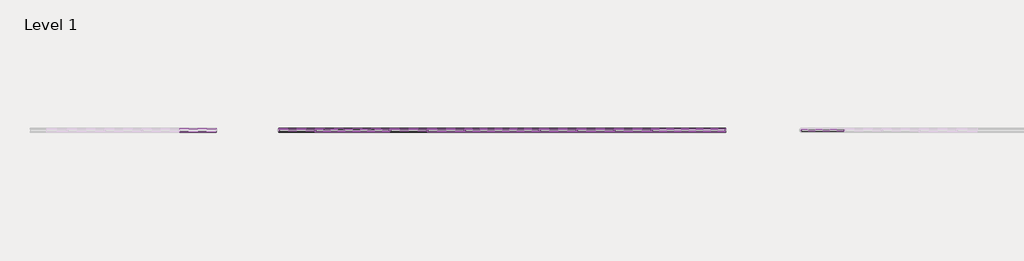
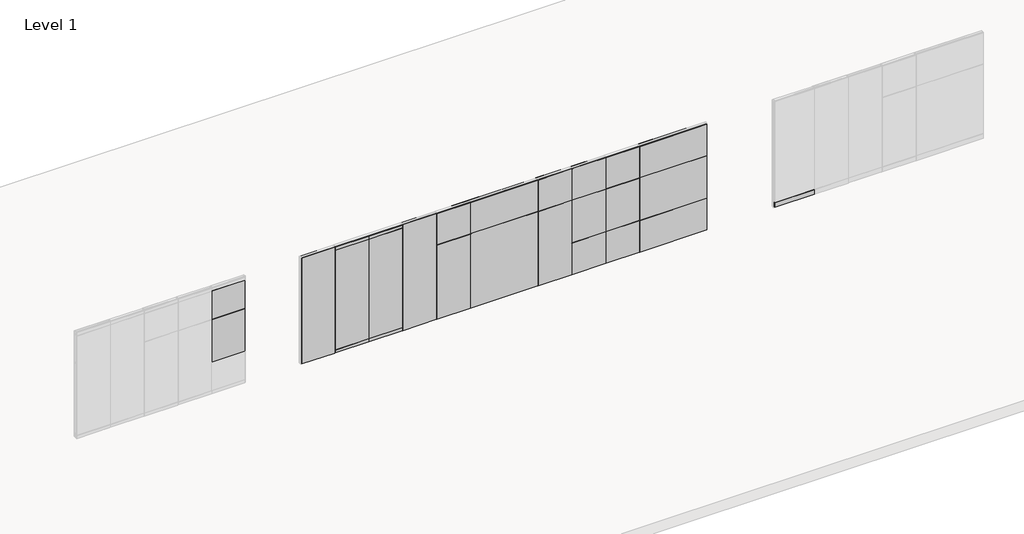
# One storey, part 6 of 22: 105 proxies.
"""IFC4 building model written with IfcOpenShell, lengths in millimetres."""

from ifc_helpers import new_model, si_unit, origin, place, context, project, spatial, transform, mapped, element, save
from components import fascia_teknion_ceiling_and_base_fpb1_d3fc623d, fascia_teknion_ceiling_and_base_fpb1_b7746e3f, fascia_teknion_ceiling_and_base_fpb1_fca0640a, fascia_teknion_ceiling_and_base_fpb1_086ac043, fascia_teknion_ceiling_and_base_fpb1_29265a3b, fascia_teknion_ceiling_and_base_fpb1_76749516, fascia_teknion_ceiling_and_base_fpb1_e3f5eff7, fascia_teknion_ceiling_and_base_fpb1_3a73742f, frame_teknion_horizontal_rail_5872ae1a, frame_teknion_horizontal_rail_46ee653b, frame_teknion_horizontal_rail_5dd37d62, frame_teknion_horizontal_rail_fbfe6c54, frame_teknion_horizontal_rail_cc39d483, full_f94a2816, full_1a342aed, full_e445f669, level_i_a4eb09b2, level_i_215115a4, level_i_cf48de54, level_i_87b26980, level_i_0481ec7f, level_ii_d92933f0, level_ii_5838736d, level_ii_d9937d3a, level_ii_c8f04d20, level_ii_2f074b98, level_iii_7086e34a, level_iii_17d9b208, level_iii_d208549f, level_iii_3557bc1e, level_iii_57fc346d, level_iii_7577bcf6, monolithic_level_i_61e75e15, monolithic_level_i_13c59c03, segmented_level_i_b619f2b0, segmented_level_i_812e5143, segmented_level_ii_95ed46a7, segmented_monolithic_level_i_26a9d159, segmented_monolithic_level_i_864a3625, segmented_monolithic_level_ii_ef75357c, segmented_monolithic_level_ii_36634c45, smart_fascia_73ffb3d4, smart_fascia_6a8e0afe, working_wall_monolithic_level_i_ddfac440, working_wall_monolithic_level_i_dfc08b04, working_wall_monolithic_level_iii_599cdcd6

model = new_model("IFC4")

# Units and contexts
model_context = context("Model", 3, world=origin())
ifc_project = project(units=[si_unit("LENGTHUNIT", "METRE", prefix="MILLI")], contexts=[model_context])

# Site, building, storey
site = spatial("IfcSite", under=ifc_project)
building = spatial("IfcBuilding", under=site)
storey = spatial("IfcBuildingStorey", under=building, Name="Level 1", Elevation=0.0)

# Proxies
placement = place(None, origin())
fascia_teknion_ceiling_and_base_fpb1_shape = fascia_teknion_ceiling_and_base_fpb1_d3fc623d(model_context)
element("IfcBuildingElementProxy", 1, Name="Fascia-Teknion-Ceiling_and_Base : FPB1", ObjectType="Fascia-Teknion-Ceiling_and_Base : FPB1", at=placement, inside=storey, context=model_context, shape_type="MappedRepresentation", body=[
    mapped(fascia_teknion_ceiling_and_base_fpb1_shape, transform((-75725.4738225, 1781.3642105, 15.875), x_axis=(1.0, 0.0, 0.0), y_axis=(0.0, 1.0, 0.0), z_axis=(0.0, 0.0, 1.0))),
])
fascia_teknion_ceiling_and_base_fpb1_2_shape = fascia_teknion_ceiling_and_base_fpb1_b7746e3f(model_context)
element("IfcBuildingElementProxy", 2, Name="Fascia-Teknion-Ceiling_and_Base : FPB1", ObjectType="Fascia-Teknion-Ceiling_and_Base : FPB1", at=placement, inside=storey, context=model_context, shape_type="MappedRepresentation", body=[
    mapped(fascia_teknion_ceiling_and_base_fpb1_2_shape, transform((-79003.3636663, 1843.3402105, 15.875), x_axis=(1.0, 0.0, 0.0), y_axis=(0.0, 1.0, 0.0), z_axis=(0.0, 0.0, 1.0))),
])
fascia_teknion_ceiling_and_base_fpb1_3_shape = fascia_teknion_ceiling_and_base_fpb1_fca0640a(model_context)
element("IfcBuildingElementProxy", 3, Name="Fascia-Teknion-Ceiling_and_Base : FPB1", ObjectType="Fascia-Teknion-Ceiling_and_Base : FPB1", at=placement, inside=storey, context=model_context, shape_type="MappedRepresentation", body=[
    mapped(fascia_teknion_ceiling_and_base_fpb1_3_shape, transform((-84939.9687444, 1843.3402105, 15.875), x_axis=(1.0, 0.0, 0.0), y_axis=(0.0, 1.0, 0.0), z_axis=(0.0, 0.0, 1.0))),
])
element("IfcBuildingElementProxy", 4, Name="Fascia-Teknion-Ceiling_and_Base : FPB1", ObjectType="Fascia-Teknion-Ceiling_and_Base : FPB1", at=placement, inside=storey, context=model_context, shape_type="MappedRepresentation", body=[
    mapped(fascia_teknion_ceiling_and_base_fpb1_3_shape, transform((-82196.7687444, 1843.3402105, 15.875), x_axis=(1.0, 0.0, 0.0), y_axis=(0.0, 1.0, 0.0), z_axis=(0.0, 0.0, 1.0))),
])
element("IfcBuildingElementProxy", 5, Name="Fascia-Teknion-Ceiling_and_Base : FPB1", ObjectType="Fascia-Teknion-Ceiling_and_Base : FPB1", at=placement, inside=storey, context=model_context, shape_type="MappedRepresentation", body=[
    mapped(fascia_teknion_ceiling_and_base_fpb1_3_shape, transform((-81282.3687444, 1843.3402105, 15.875), x_axis=(1.0, 0.0, 0.0), y_axis=(0.0, 1.0, 0.0), z_axis=(0.0, 0.0, 1.0))),
])
element("IfcBuildingElementProxy", 6, Name="Fascia-Teknion-Ceiling_and_Base : FPB1", ObjectType="Fascia-Teknion-Ceiling_and_Base : FPB1", at=placement, inside=storey, context=model_context, shape_type="MappedRepresentation", body=[
    mapped(fascia_teknion_ceiling_and_base_fpb1_3_shape, transform((-80367.9687444, 1843.3402105, 15.875), x_axis=(1.0, 0.0, 0.0), y_axis=(0.0, 1.0, 0.0), z_axis=(0.0, 0.0, 1.0))),
])
element("IfcBuildingElementProxy", 7, Name="Fascia-Teknion-Ceiling_and_Base : FPB1", ObjectType="Fascia-Teknion-Ceiling_and_Base : FPB1", at=placement, inside=storey, context=model_context, shape_type="MappedRepresentation", body=[
    mapped(fascia_teknion_ceiling_and_base_fpb1_3_shape, transform((-85854.3687444, 1843.3402105, 15.875), x_axis=(1.0, 0.0, 0.0), y_axis=(0.0, 1.0, 0.0), z_axis=(0.0, 0.0, 1.0))),
])
fascia_teknion_ceiling_and_base_fpb1_4_shape = fascia_teknion_ceiling_and_base_fpb1_086ac043(model_context)
element("IfcBuildingElementProxy", 8, Name="Fascia-Teknion-Ceiling_and_Base : FPB1", ObjectType="Fascia-Teknion-Ceiling_and_Base : FPB1", at=placement, inside=storey, context=model_context, shape_type="MappedRepresentation", body=[
    mapped(fascia_teknion_ceiling_and_base_fpb1_4_shape, transform((-83568.3687444, 1843.3402105, 15.875), x_axis=(1.0, 0.0, 0.0), y_axis=(0.0, 1.0, 0.0), z_axis=(0.0, 0.0, 1.0))),
])
fascia_teknion_ceiling_and_base_fpb1_5_shape = fascia_teknion_ceiling_and_base_fpb1_29265a3b(model_context)
element("IfcBuildingElementProxy", 9, Name="Fascia-Teknion-Ceiling_and_Base : FPB1", ObjectType="Fascia-Teknion-Ceiling_and_Base : FPB1", at=placement, inside=storey, context=model_context, shape_type="MappedRepresentation", body=[
    mapped(fascia_teknion_ceiling_and_base_fpb1_5_shape, transform((-75725.4738225, 1843.3402105, 15.875), x_axis=(1.0, 0.0, 0.0), y_axis=(0.0, 1.0, 0.0), z_axis=(0.0, 0.0, 1.0))),
])
fascia_teknion_ceiling_and_base_fpb1_6_shape = fascia_teknion_ceiling_and_base_fpb1_76749516(model_context)
element("IfcBuildingElementProxy", 10, Name="Fascia-Teknion-Ceiling_and_Base : FPB1", ObjectType="Fascia-Teknion-Ceiling_and_Base : FPB1", at=placement, inside=storey, context=model_context, shape_type="MappedRepresentation", body=[
    mapped(fascia_teknion_ceiling_and_base_fpb1_6_shape, transform((-88590.5738225, 1843.3402105, 15.875), x_axis=(1.0, 0.0, 0.0), y_axis=(0.0, 1.0, 0.0), z_axis=(0.0, 0.0, 1.0))),
])
fascia_teknion_ceiling_and_base_fpb1_7_shape = fascia_teknion_ceiling_and_base_fpb1_e3f5eff7(model_context)
element("IfcBuildingElementProxy", 11, Name="Fascia-Teknion-Ceiling_and_Base : FPB1", ObjectType="Fascia-Teknion-Ceiling_and_Base : FPB1", at=placement, inside=storey, context=model_context, shape_type="MappedRepresentation", body=[
    mapped(fascia_teknion_ceiling_and_base_fpb1_7_shape, transform((-87681.5812444, 1843.3402105, 15.875), x_axis=(1.0, 0.0, 0.0), y_axis=(0.0, 1.0, 0.0), z_axis=(0.0, 0.0, 1.0))),
])
element("IfcBuildingElementProxy", 12, Name="Fascia-Teknion-Ceiling_and_Base : FPB1", ObjectType="Fascia-Teknion-Ceiling_and_Base : FPB1", at=placement, inside=storey, context=model_context, shape_type="MappedRepresentation", body=[
    mapped(fascia_teknion_ceiling_and_base_fpb1_7_shape, transform((-86770.3562444, 1781.3642105, 15.875), x_axis=(-1.0, 0.0, 0.0), y_axis=(0.0, -1.0, 0.0), z_axis=(0.0, 0.0, 1.0))),
])
fascia_teknion_ceiling_and_base_fpb1_8_shape = fascia_teknion_ceiling_and_base_fpb1_3a73742f(model_context)
element("IfcBuildingElementProxy", 13, Name="Fascia-Teknion-Ceiling_and_Base : FPB1", ObjectType="Fascia-Teknion-Ceiling_and_Base : FPB1", at=placement, inside=storey, context=model_context, shape_type="MappedRepresentation", body=[
    mapped(fascia_teknion_ceiling_and_base_fpb1_8_shape, transform((-87681.5812444, 1781.3642105, 15.875), x_axis=(1.0, 0.0, 0.0), y_axis=(0.0, 1.0, 0.0), z_axis=(0.0, 0.0, 1.0))),
])
element("IfcBuildingElementProxy", 14, Name="Fascia-Teknion-Ceiling_and_Base : FPB1", ObjectType="Fascia-Teknion-Ceiling_and_Base : FPB1", at=placement, inside=storey, context=model_context, shape_type="MappedRepresentation", body=[
    mapped(fascia_teknion_ceiling_and_base_fpb1_8_shape, transform((-86770.3562444, 1843.3402105, 15.875), x_axis=(-1.0, 0.0, 0.0), y_axis=(0.0, -1.0, 0.0), z_axis=(0.0, 0.0, 1.0))),
])
element("IfcBuildingElementProxy", 15, Name="Fascia-Teknion-Ceiling_and_Base : FPC", ObjectType="Fascia-Teknion-Ceiling_and_Base : FPC", at=placement, inside=storey, context=model_context, shape_type="MappedRepresentation", body=[
    mapped(fascia_teknion_ceiling_and_base_fpb1_2_shape, transform((-79003.3636663, 1843.3402105, 2950.845), x_axis=(1.0, 0.0, 0.0), y_axis=(0.0, 1.0, 0.0), z_axis=(0.0, 0.0, 1.0))),
])
element("IfcBuildingElementProxy", 16, Name="Fascia-Teknion-Ceiling_and_Base : FPC", ObjectType="Fascia-Teknion-Ceiling_and_Base : FPC", at=placement, inside=storey, context=model_context, shape_type="MappedRepresentation", body=[
    mapped(fascia_teknion_ceiling_and_base_fpb1_3_shape, transform((-84939.9687444, 1843.3402105, 2950.845), x_axis=(1.0, 0.0, 0.0), y_axis=(0.0, 1.0, 0.0), z_axis=(0.0, 0.0, 1.0))),
])
element("IfcBuildingElementProxy", 17, Name="Fascia-Teknion-Ceiling_and_Base : FPC", ObjectType="Fascia-Teknion-Ceiling_and_Base : FPC", at=placement, inside=storey, context=model_context, shape_type="MappedRepresentation", body=[
    mapped(fascia_teknion_ceiling_and_base_fpb1_3_shape, transform((-82196.7687444, 1843.3402105, 2950.845), x_axis=(1.0, 0.0, 0.0), y_axis=(0.0, 1.0, 0.0), z_axis=(0.0, 0.0, 1.0))),
])
element("IfcBuildingElementProxy", 18, Name="Fascia-Teknion-Ceiling_and_Base : FPC", ObjectType="Fascia-Teknion-Ceiling_and_Base : FPC", at=placement, inside=storey, context=model_context, shape_type="MappedRepresentation", body=[
    mapped(fascia_teknion_ceiling_and_base_fpb1_3_shape, transform((-81282.3687444, 1843.3402105, 2950.845), x_axis=(1.0, 0.0, 0.0), y_axis=(0.0, 1.0, 0.0), z_axis=(0.0, 0.0, 1.0))),
])
element("IfcBuildingElementProxy", 19, Name="Fascia-Teknion-Ceiling_and_Base : FPC", ObjectType="Fascia-Teknion-Ceiling_and_Base : FPC", at=placement, inside=storey, context=model_context, shape_type="MappedRepresentation", body=[
    mapped(fascia_teknion_ceiling_and_base_fpb1_3_shape, transform((-80367.9687444, 1843.3402105, 2950.845), x_axis=(1.0, 0.0, 0.0), y_axis=(0.0, 1.0, 0.0), z_axis=(0.0, 0.0, 1.0))),
])
element("IfcBuildingElementProxy", 20, Name="Fascia-Teknion-Ceiling_and_Base : FPC", ObjectType="Fascia-Teknion-Ceiling_and_Base : FPC", at=placement, inside=storey, context=model_context, shape_type="MappedRepresentation", body=[
    mapped(fascia_teknion_ceiling_and_base_fpb1_3_shape, transform((-85854.3687444, 1843.3402105, 2950.845), x_axis=(1.0, 0.0, 0.0), y_axis=(0.0, 1.0, 0.0), z_axis=(0.0, 0.0, 1.0))),
])
element("IfcBuildingElementProxy", 21, Name="Fascia-Teknion-Ceiling_and_Base : FPC", ObjectType="Fascia-Teknion-Ceiling_and_Base : FPC", at=placement, inside=storey, context=model_context, shape_type="MappedRepresentation", body=[
    mapped(fascia_teknion_ceiling_and_base_fpb1_4_shape, transform((-83568.3687444, 1843.3402105, 2950.845), x_axis=(1.0, 0.0, 0.0), y_axis=(0.0, 1.0, 0.0), z_axis=(0.0, 0.0, 1.0))),
])
element("IfcBuildingElementProxy", 22, Name="Fascia-Teknion-Ceiling_and_Base : FPC", ObjectType="Fascia-Teknion-Ceiling_and_Base : FPC", at=placement, inside=storey, context=model_context, shape_type="MappedRepresentation", body=[
    mapped(fascia_teknion_ceiling_and_base_fpb1_6_shape, transform((-88590.5738225, 1843.3402105, 2950.845), x_axis=(1.0, 0.0, 0.0), y_axis=(0.0, 1.0, 0.0), z_axis=(0.0, 0.0, 1.0))),
])
element("IfcBuildingElementProxy", 23, Name="Fascia-Teknion-Ceiling_and_Base : FPC", ObjectType="Fascia-Teknion-Ceiling_and_Base : FPC", at=placement, inside=storey, context=model_context, shape_type="MappedRepresentation", body=[
    mapped(fascia_teknion_ceiling_and_base_fpb1_7_shape, transform((-87681.5812444, 1843.3402105, 2950.845), x_axis=(1.0, 0.0, 0.0), y_axis=(0.0, 1.0, 0.0), z_axis=(0.0, 0.0, 1.0))),
])
element("IfcBuildingElementProxy", 24, Name="Fascia-Teknion-Ceiling_and_Base : FPC", ObjectType="Fascia-Teknion-Ceiling_and_Base : FPC", at=placement, inside=storey, context=model_context, shape_type="MappedRepresentation", body=[
    mapped(fascia_teknion_ceiling_and_base_fpb1_7_shape, transform((-86770.3562444, 1781.3642105, 2950.845), x_axis=(-1.0, 0.0, 0.0), y_axis=(0.0, -1.0, 0.0), z_axis=(0.0, 0.0, 1.0))),
])
element("IfcBuildingElementProxy", 25, Name="Fascia-Teknion-Ceiling_and_Base : FPC", ObjectType="Fascia-Teknion-Ceiling_and_Base : FPC", at=placement, inside=storey, context=model_context, shape_type="MappedRepresentation", body=[
    mapped(fascia_teknion_ceiling_and_base_fpb1_8_shape, transform((-87681.5812444, 1781.3642105, 2950.845), x_axis=(1.0, 0.0, 0.0), y_axis=(0.0, 1.0, 0.0), z_axis=(0.0, 0.0, 1.0))),
])
element("IfcBuildingElementProxy", 26, Name="Fascia-Teknion-Ceiling_and_Base : FPC", ObjectType="Fascia-Teknion-Ceiling_and_Base : FPC", at=placement, inside=storey, context=model_context, shape_type="MappedRepresentation", body=[
    mapped(fascia_teknion_ceiling_and_base_fpb1_8_shape, transform((-86770.3562444, 1843.3402105, 2950.845), x_axis=(-1.0, 0.0, 0.0), y_axis=(0.0, -1.0, 0.0), z_axis=(0.0, 0.0, 1.0))),
])
frame_teknion_horizontal_rail_shape = frame_teknion_horizontal_rail_5872ae1a(model_context)
element("IfcBuildingElementProxy", 27, Name="Frame-Teknion-Horizontal_Rail : FPKK", ObjectType="Frame-Teknion-Horizontal_Rail : FPKK", at=placement, inside=storey, context=model_context, shape_type="MappedRepresentation", body=[
    mapped(frame_teknion_horizontal_rail_shape, transform((-88590.5738225, 1812.3522105, 917.575), x_axis=(1.0, 0.0, 0.0), y_axis=(0.0, 1.0, 0.0), z_axis=(0.0, 0.0, 1.0))),
])
element("IfcBuildingElementProxy", 28, Name="Frame-Teknion-Horizontal_Rail : FPKK", ObjectType="Frame-Teknion-Horizontal_Rail : FPKK", at=placement, inside=storey, context=model_context, shape_type="MappedRepresentation", body=[
    mapped(frame_teknion_horizontal_rail_shape, transform((-88590.5738225, 1812.3522105, 2136.775), x_axis=(1.0, 0.0, 0.0), y_axis=(0.0, 1.0, 0.0), z_axis=(0.0, 0.0, 1.0))),
])
element("IfcBuildingElementProxy", 29, Name="Frame-Teknion-Horizontal_Rail : FPKK", ObjectType="Frame-Teknion-Horizontal_Rail : FPKK", at=placement, inside=storey, context=model_context, shape_type="MappedRepresentation", body=[
    mapped(frame_teknion_horizontal_rail_shape, transform((-88590.5738225, 1812.3522105, 100.457), x_axis=(1.0, 0.0, 0.0), y_axis=(0.0, 1.0, 0.0), z_axis=(0.0, 0.0, 1.0))),
])
element("IfcBuildingElementProxy", 30, Name="Frame-Teknion-Horizontal_Rail : FPKK", ObjectType="Frame-Teknion-Horizontal_Rail : FPKK", at=placement, inside=storey, context=model_context, shape_type="MappedRepresentation", body=[
    mapped(frame_teknion_horizontal_rail_shape, transform((-88590.5738225, 1812.3522105, 2949.1305), x_axis=(1.0, 0.0, 0.0), y_axis=(0.0, 1.0, 0.0), z_axis=(0.0, 0.0, 1.0))),
])
frame_teknion_horizontal_rail_2_shape = frame_teknion_horizontal_rail_46ee653b(model_context)
element("IfcBuildingElementProxy", 31, Name="Frame-Teknion-Horizontal_Rail : FPKK", ObjectType="Frame-Teknion-Horizontal_Rail : FPKK", at=placement, inside=storey, context=model_context, shape_type="MappedRepresentation", body=[
    mapped(frame_teknion_horizontal_rail_2_shape, transform((-85854.3687444, 1812.3522105, 2136.775), x_axis=(1.0, 0.0, 0.0), y_axis=(0.0, 1.0, 0.0), z_axis=(0.0, 0.0, 1.0))),
])
element("IfcBuildingElementProxy", 32, Name="Frame-Teknion-Horizontal_Rail : FPKK", ObjectType="Frame-Teknion-Horizontal_Rail : FPKK", at=placement, inside=storey, context=model_context, shape_type="MappedRepresentation", body=[
    mapped(frame_teknion_horizontal_rail_2_shape, transform((-85854.3687444, 1812.3522105, 100.457), x_axis=(1.0, 0.0, 0.0), y_axis=(0.0, 1.0, 0.0), z_axis=(0.0, 0.0, 1.0))),
])
element("IfcBuildingElementProxy", 33, Name="Frame-Teknion-Horizontal_Rail : FPKK", ObjectType="Frame-Teknion-Horizontal_Rail : FPKK", at=placement, inside=storey, context=model_context, shape_type="MappedRepresentation", body=[
    mapped(frame_teknion_horizontal_rail_2_shape, transform((-85854.3687444, 1812.3522105, 2949.1305), x_axis=(1.0, 0.0, 0.0), y_axis=(0.0, 1.0, 0.0), z_axis=(0.0, 0.0, 1.0))),
])
element("IfcBuildingElementProxy", 34, Name="Frame-Teknion-Horizontal_Rail : FPKK", ObjectType="Frame-Teknion-Horizontal_Rail : FPKK", at=placement, inside=storey, context=model_context, shape_type="MappedRepresentation", body=[
    mapped(frame_teknion_horizontal_rail_2_shape, transform((-84939.9687444, 1812.3522105, 2136.775), x_axis=(1.0, 0.0, 0.0), y_axis=(0.0, 1.0, 0.0), z_axis=(0.0, 0.0, 1.0))),
])
element("IfcBuildingElementProxy", 35, Name="Frame-Teknion-Horizontal_Rail : FPKK", ObjectType="Frame-Teknion-Horizontal_Rail : FPKK", at=placement, inside=storey, context=model_context, shape_type="MappedRepresentation", body=[
    mapped(frame_teknion_horizontal_rail_2_shape, transform((-84939.9687444, 1812.3522105, 100.457), x_axis=(1.0, 0.0, 0.0), y_axis=(0.0, 1.0, 0.0), z_axis=(0.0, 0.0, 1.0))),
])
element("IfcBuildingElementProxy", 36, Name="Frame-Teknion-Horizontal_Rail : FPKK", ObjectType="Frame-Teknion-Horizontal_Rail : FPKK", at=placement, inside=storey, context=model_context, shape_type="MappedRepresentation", body=[
    mapped(frame_teknion_horizontal_rail_2_shape, transform((-84939.9687444, 1812.3522105, 2949.1305), x_axis=(1.0, 0.0, 0.0), y_axis=(0.0, 1.0, 0.0), z_axis=(0.0, 0.0, 1.0))),
])
element("IfcBuildingElementProxy", 37, Name="Frame-Teknion-Horizontal_Rail : FPKK", ObjectType="Frame-Teknion-Horizontal_Rail : FPKK", at=placement, inside=storey, context=model_context, shape_type="MappedRepresentation", body=[
    mapped(frame_teknion_horizontal_rail_2_shape, transform((-82196.7687444, 1812.3522105, 917.575), x_axis=(1.0, 0.0, 0.0), y_axis=(0.0, 1.0, 0.0), z_axis=(0.0, 0.0, 1.0))),
])
element("IfcBuildingElementProxy", 38, Name="Frame-Teknion-Horizontal_Rail : FPKK", ObjectType="Frame-Teknion-Horizontal_Rail : FPKK", at=placement, inside=storey, context=model_context, shape_type="MappedRepresentation", body=[
    mapped(frame_teknion_horizontal_rail_2_shape, transform((-82196.7687444, 1812.3522105, 2136.775), x_axis=(1.0, 0.0, 0.0), y_axis=(0.0, 1.0, 0.0), z_axis=(0.0, 0.0, 1.0))),
])
element("IfcBuildingElementProxy", 39, Name="Frame-Teknion-Horizontal_Rail : FPKK", ObjectType="Frame-Teknion-Horizontal_Rail : FPKK", at=placement, inside=storey, context=model_context, shape_type="MappedRepresentation", body=[
    mapped(frame_teknion_horizontal_rail_2_shape, transform((-82196.7687444, 1812.3522105, 100.457), x_axis=(1.0, 0.0, 0.0), y_axis=(0.0, 1.0, 0.0), z_axis=(0.0, 0.0, 1.0))),
])
element("IfcBuildingElementProxy", 40, Name="Frame-Teknion-Horizontal_Rail : FPKK", ObjectType="Frame-Teknion-Horizontal_Rail : FPKK", at=placement, inside=storey, context=model_context, shape_type="MappedRepresentation", body=[
    mapped(frame_teknion_horizontal_rail_2_shape, transform((-82196.7687444, 1812.3522105, 2949.1305), x_axis=(1.0, 0.0, 0.0), y_axis=(0.0, 1.0, 0.0), z_axis=(0.0, 0.0, 1.0))),
])
element("IfcBuildingElementProxy", 41, Name="Frame-Teknion-Horizontal_Rail : FPKK", ObjectType="Frame-Teknion-Horizontal_Rail : FPKK", at=placement, inside=storey, context=model_context, shape_type="MappedRepresentation", body=[
    mapped(frame_teknion_horizontal_rail_2_shape, transform((-81282.3687444, 1812.3522105, 917.575), x_axis=(1.0, 0.0, 0.0), y_axis=(0.0, 1.0, 0.0), z_axis=(0.0, 0.0, 1.0))),
])
element("IfcBuildingElementProxy", 42, Name="Frame-Teknion-Horizontal_Rail : FPKK", ObjectType="Frame-Teknion-Horizontal_Rail : FPKK", at=placement, inside=storey, context=model_context, shape_type="MappedRepresentation", body=[
    mapped(frame_teknion_horizontal_rail_2_shape, transform((-81282.3687444, 1812.3522105, 2136.775), x_axis=(1.0, 0.0, 0.0), y_axis=(0.0, 1.0, 0.0), z_axis=(0.0, 0.0, 1.0))),
])
element("IfcBuildingElementProxy", 43, Name="Frame-Teknion-Horizontal_Rail : FPKK", ObjectType="Frame-Teknion-Horizontal_Rail : FPKK", at=placement, inside=storey, context=model_context, shape_type="MappedRepresentation", body=[
    mapped(frame_teknion_horizontal_rail_2_shape, transform((-81282.3687444, 1812.3522105, 100.457), x_axis=(1.0, 0.0, 0.0), y_axis=(0.0, 1.0, 0.0), z_axis=(0.0, 0.0, 1.0))),
])
element("IfcBuildingElementProxy", 44, Name="Frame-Teknion-Horizontal_Rail : FPKK", ObjectType="Frame-Teknion-Horizontal_Rail : FPKK", at=placement, inside=storey, context=model_context, shape_type="MappedRepresentation", body=[
    mapped(frame_teknion_horizontal_rail_2_shape, transform((-81282.3687444, 1812.3522105, 2949.1305), x_axis=(1.0, 0.0, 0.0), y_axis=(0.0, 1.0, 0.0), z_axis=(0.0, 0.0, 1.0))),
])
element("IfcBuildingElementProxy", 45, Name="Frame-Teknion-Horizontal_Rail : FPKK", ObjectType="Frame-Teknion-Horizontal_Rail : FPKK", at=placement, inside=storey, context=model_context, shape_type="MappedRepresentation", body=[
    mapped(frame_teknion_horizontal_rail_2_shape, transform((-80367.9687444, 1812.3522105, 917.575), x_axis=(1.0, 0.0, 0.0), y_axis=(0.0, 1.0, 0.0), z_axis=(0.0, 0.0, 1.0))),
])
element("IfcBuildingElementProxy", 46, Name="Frame-Teknion-Horizontal_Rail : FPKK", ObjectType="Frame-Teknion-Horizontal_Rail : FPKK", at=placement, inside=storey, context=model_context, shape_type="MappedRepresentation", body=[
    mapped(frame_teknion_horizontal_rail_2_shape, transform((-80367.9687444, 1812.3522105, 2136.775), x_axis=(1.0, 0.0, 0.0), y_axis=(0.0, 1.0, 0.0), z_axis=(0.0, 0.0, 1.0))),
])
element("IfcBuildingElementProxy", 47, Name="Frame-Teknion-Horizontal_Rail : FPKK", ObjectType="Frame-Teknion-Horizontal_Rail : FPKK", at=placement, inside=storey, context=model_context, shape_type="MappedRepresentation", body=[
    mapped(frame_teknion_horizontal_rail_2_shape, transform((-80367.9687444, 1812.3522105, 100.457), x_axis=(1.0, 0.0, 0.0), y_axis=(0.0, 1.0, 0.0), z_axis=(0.0, 0.0, 1.0))),
])
element("IfcBuildingElementProxy", 48, Name="Frame-Teknion-Horizontal_Rail : FPKK", ObjectType="Frame-Teknion-Horizontal_Rail : FPKK", at=placement, inside=storey, context=model_context, shape_type="MappedRepresentation", body=[
    mapped(frame_teknion_horizontal_rail_2_shape, transform((-80367.9687444, 1812.3522105, 2949.1305), x_axis=(1.0, 0.0, 0.0), y_axis=(0.0, 1.0, 0.0), z_axis=(0.0, 0.0, 1.0))),
])
frame_teknion_horizontal_rail_3_shape = frame_teknion_horizontal_rail_5dd37d62(model_context)
element("IfcBuildingElementProxy", 49, Name="Frame-Teknion-Horizontal_Rail : FPKK", ObjectType="Frame-Teknion-Horizontal_Rail : FPKK", at=placement, inside=storey, context=model_context, shape_type="MappedRepresentation", body=[
    mapped(frame_teknion_horizontal_rail_3_shape, transform((-83568.3687444, 1812.3522105, 2136.775), x_axis=(1.0, 0.0, 0.0), y_axis=(0.0, 1.0, 0.0), z_axis=(0.0, 0.0, 1.0))),
])
element("IfcBuildingElementProxy", 50, Name="Frame-Teknion-Horizontal_Rail : FPKK", ObjectType="Frame-Teknion-Horizontal_Rail : FPKK", at=placement, inside=storey, context=model_context, shape_type="MappedRepresentation", body=[
    mapped(frame_teknion_horizontal_rail_3_shape, transform((-83568.3687444, 1812.3522105, 100.457), x_axis=(1.0, 0.0, 0.0), y_axis=(0.0, 1.0, 0.0), z_axis=(0.0, 0.0, 1.0))),
])
element("IfcBuildingElementProxy", 51, Name="Frame-Teknion-Horizontal_Rail : FPKK", ObjectType="Frame-Teknion-Horizontal_Rail : FPKK", at=placement, inside=storey, context=model_context, shape_type="MappedRepresentation", body=[
    mapped(frame_teknion_horizontal_rail_3_shape, transform((-83568.3687444, 1812.3522105, 2949.1305), x_axis=(1.0, 0.0, 0.0), y_axis=(0.0, 1.0, 0.0), z_axis=(0.0, 0.0, 1.0))),
])
element("IfcBuildingElementProxy", 52, Name="Frame-Teknion-Horizontal_Rail : FPKK", ObjectType="Frame-Teknion-Horizontal_Rail : FPKK", at=placement, inside=storey, context=model_context, shape_type="MappedRepresentation", body=[
    mapped(frame_teknion_horizontal_rail_3_shape, transform((-87225.9687444, 1812.3522105, 917.575), x_axis=(1.0, 0.0, 0.0), y_axis=(0.0, 1.0, 0.0), z_axis=(0.0, 0.0, 1.0))),
])
element("IfcBuildingElementProxy", 53, Name="Frame-Teknion-Horizontal_Rail : FPKK", ObjectType="Frame-Teknion-Horizontal_Rail : FPKK", at=placement, inside=storey, context=model_context, shape_type="MappedRepresentation", body=[
    mapped(frame_teknion_horizontal_rail_3_shape, transform((-87225.9687444, 1812.3522105, 2136.775), x_axis=(1.0, 0.0, 0.0), y_axis=(0.0, 1.0, 0.0), z_axis=(0.0, 0.0, 1.0))),
])
element("IfcBuildingElementProxy", 54, Name="Frame-Teknion-Horizontal_Rail : FPKK", ObjectType="Frame-Teknion-Horizontal_Rail : FPKK", at=placement, inside=storey, context=model_context, shape_type="MappedRepresentation", body=[
    mapped(frame_teknion_horizontal_rail_3_shape, transform((-87225.9687444, 1812.3522105, 97.155), x_axis=(1.0, 0.0, 0.0), y_axis=(0.0, 1.0, 0.0), z_axis=(0.0, 0.0, 1.0))),
])
element("IfcBuildingElementProxy", 55, Name="Frame-Teknion-Horizontal_Rail : FPKK", ObjectType="Frame-Teknion-Horizontal_Rail : FPKK", at=placement, inside=storey, context=model_context, shape_type="MappedRepresentation", body=[
    mapped(frame_teknion_horizontal_rail_3_shape, transform((-87225.9687444, 1812.3522105, 2949.1305), x_axis=(1.0, 0.0, 0.0), y_axis=(0.0, 1.0, 0.0), z_axis=(0.0, 0.0, 1.0))),
])
frame_teknion_horizontal_rail_4_shape = frame_teknion_horizontal_rail_fbfe6c54(model_context)
element("IfcBuildingElementProxy", 56, Name="Frame-Teknion-Horizontal_Rail : FPKK", ObjectType="Frame-Teknion-Horizontal_Rail : FPKK", at=placement, inside=storey, context=model_context, shape_type="MappedRepresentation", body=[
    mapped(frame_teknion_horizontal_rail_4_shape, transform((-79003.3636663, 1812.3522105, 917.575), x_axis=(1.0, 0.0, 0.0), y_axis=(0.0, 1.0, 0.0), z_axis=(0.0, 0.0, 1.0))),
])
element("IfcBuildingElementProxy", 57, Name="Frame-Teknion-Horizontal_Rail : FPKK", ObjectType="Frame-Teknion-Horizontal_Rail : FPKK", at=placement, inside=storey, context=model_context, shape_type="MappedRepresentation", body=[
    mapped(frame_teknion_horizontal_rail_4_shape, transform((-79003.3636663, 1812.3522105, 2136.775), x_axis=(1.0, 0.0, 0.0), y_axis=(0.0, 1.0, 0.0), z_axis=(0.0, 0.0, 1.0))),
])
element("IfcBuildingElementProxy", 58, Name="Frame-Teknion-Horizontal_Rail : FPKK", ObjectType="Frame-Teknion-Horizontal_Rail : FPKK", at=placement, inside=storey, context=model_context, shape_type="MappedRepresentation", body=[
    mapped(frame_teknion_horizontal_rail_4_shape, transform((-79003.3636663, 1812.3522105, 100.457), x_axis=(1.0, 0.0, 0.0), y_axis=(0.0, 1.0, 0.0), z_axis=(0.0, 0.0, 1.0))),
])
element("IfcBuildingElementProxy", 59, Name="Frame-Teknion-Horizontal_Rail : FPKK", ObjectType="Frame-Teknion-Horizontal_Rail : FPKK", at=placement, inside=storey, context=model_context, shape_type="MappedRepresentation", body=[
    mapped(frame_teknion_horizontal_rail_4_shape, transform((-79003.3636663, 1812.3522105, 2949.1305), x_axis=(1.0, 0.0, 0.0), y_axis=(0.0, 1.0, 0.0), z_axis=(0.0, 0.0, 1.0))),
])
frame_teknion_horizontal_rail_5_shape = frame_teknion_horizontal_rail_cc39d483(model_context)
element("IfcBuildingElementProxy", 60, Name="Frame-Teknion-Horizontal_Rail : FPKK", ObjectType="Frame-Teknion-Horizontal_Rail : FPKK", at=placement, inside=storey, context=model_context, shape_type="MappedRepresentation", body=[
    mapped(frame_teknion_horizontal_rail_5_shape, transform((-75725.4738225, 1812.3522105, 2949.1305), x_axis=(1.0, 0.0, 0.0), y_axis=(0.0, 1.0, 0.0), z_axis=(0.0, 0.0, 1.0))),
])
element("IfcBuildingElementProxy", 61, Name="Frame-Teknion-Horizontal_Rail : FPKK", ObjectType="Frame-Teknion-Horizontal_Rail : FPKK", at=placement, inside=storey, context=model_context, shape_type="MappedRepresentation", body=[
    mapped(frame_teknion_horizontal_rail_5_shape, transform((-75725.4738225, 1812.3522105, 151.257), x_axis=(1.0, 0.0, 0.0), y_axis=(0.0, 1.0, 0.0), z_axis=(0.0, 0.0, 1.0))),
])
full_shape = full_f94a2816(model_context)
element("IfcBuildingElementProxy", 62, Name="Panel-Fascia-Teknion-Altos-Standard : Full", ObjectType="Panel-Fascia-Teknion-Altos-Standard : Full", at=placement, inside=storey, context=model_context, shape_type="MappedRepresentation", body=[
    mapped(full_shape, transform((-84939.9687444, 1852.8652105, 100.457), x_axis=(1.0, 0.0, 0.0), y_axis=(0.0, 1.0, 0.0), z_axis=(0.0, 0.0, 1.0))),
])
element("IfcBuildingElementProxy", 63, Name="Panel-Fascia-Teknion-Altos-Standard : Full", ObjectType="Panel-Fascia-Teknion-Altos-Standard : Full", at=placement, inside=storey, context=model_context, shape_type="MappedRepresentation", body=[
    mapped(full_shape, transform((-81282.3687444, 1852.8652105, 100.457), x_axis=(1.0, 0.0, 0.0), y_axis=(0.0, 1.0, 0.0), z_axis=(0.0, 0.0, 1.0))),
])
full_2_shape = full_1a342aed(model_context)
element("IfcBuildingElementProxy", 64, Name="Panel-Fascia-Teknion-Altos-Standard : Full", ObjectType="Panel-Fascia-Teknion-Altos-Standard : Full", at=placement, inside=storey, context=model_context, shape_type="MappedRepresentation", body=[
    mapped(full_2_shape, transform((-86770.3562444, 1771.8392105, 100.457), x_axis=(1.0, 0.0, 0.0), y_axis=(0.0, 1.0, 0.0), z_axis=(0.0, 0.0, 1.0))),
])
full_3_shape = full_e445f669(model_context)
element("IfcBuildingElementProxy", 65, Name="Panel-Fascia-Teknion-Altos-Standard : Full", ObjectType="Panel-Fascia-Teknion-Altos-Standard : Full", at=placement, inside=storey, context=model_context, shape_type="MappedRepresentation", body=[
    mapped(full_3_shape, transform((-87681.5812444, 1771.8392105, 100.457), x_axis=(-1.0, 0.0, 0.0), y_axis=(0.0, -1.0, 0.0), z_axis=(0.0, 0.0, 1.0))),
])
level_i_shape = level_i_a4eb09b2(model_context)
element("IfcBuildingElementProxy", 66, Name="Panel-Fascia-Teknion-Altos-Standard : Level I", ObjectType="Panel-Fascia-Teknion-Altos-Standard : Level I", at=placement, inside=storey, context=model_context, shape_type="MappedRepresentation", body=[
    mapped(level_i_shape, transform((-79003.3636663, 1852.8652105, 100.457), x_axis=(1.0, 0.0, 0.0), y_axis=(0.0, 1.0, 0.0), z_axis=(0.0, 0.0, 1.0))),
])
level_i_2_shape = level_i_215115a4(model_context)
element("IfcBuildingElementProxy", 67, Name="Panel-Fascia-Teknion-Altos-Standard : Level I", ObjectType="Panel-Fascia-Teknion-Altos-Standard : Level I", at=placement, inside=storey, context=model_context, shape_type="MappedRepresentation", body=[
    mapped(level_i_2_shape, transform((-82196.7687444, 1852.8652105, 100.457), x_axis=(1.0, 0.0, 0.0), y_axis=(0.0, 1.0, 0.0), z_axis=(0.0, 0.0, 1.0))),
])
level_i_3_shape = level_i_cf48de54(model_context)
element("IfcBuildingElementProxy", 68, Name="Panel-Fascia-Teknion-Altos-Standard : Level I", ObjectType="Panel-Fascia-Teknion-Altos-Standard : Level I", at=placement, inside=storey, context=model_context, shape_type="MappedRepresentation", body=[
    mapped(level_i_3_shape, transform((-88590.5738225, 1852.8652105, 100.457), x_axis=(1.0, 0.0, 0.0), y_axis=(0.0, 1.0, 0.0), z_axis=(0.0, 0.0, 1.0))),
])
level_i_4_shape = level_i_87b26980(model_context)
element("IfcBuildingElementProxy", 69, Name="Panel-Fascia-Teknion-Altos-Standard : Level I", ObjectType="Panel-Fascia-Teknion-Altos-Standard : Level I", at=placement, inside=storey, context=model_context, shape_type="MappedRepresentation", body=[
    mapped(level_i_4_shape, transform((-87681.5812444, 1852.8652105, 100.457), x_axis=(1.0, 0.0, 0.0), y_axis=(0.0, 1.0, 0.0), z_axis=(0.0, 0.0, 1.0))),
])
level_i_5_shape = level_i_0481ec7f(model_context)
element("IfcBuildingElementProxy", 70, Name="Panel-Fascia-Teknion-Altos-Standard : Level I", ObjectType="Panel-Fascia-Teknion-Altos-Standard : Level I", at=placement, inside=storey, context=model_context, shape_type="MappedRepresentation", body=[
    mapped(level_i_5_shape, transform((-86770.3562444, 1852.8652105, 100.457), x_axis=(-1.0, 0.0, 0.0), y_axis=(0.0, -1.0, 0.0), z_axis=(0.0, 0.0, 1.0))),
])
level_ii_shape = level_ii_d92933f0(model_context)
element("IfcBuildingElementProxy", 71, Name="Panel-Fascia-Teknion-Altos-Standard : Level II", ObjectType="Panel-Fascia-Teknion-Altos-Standard : Level II", at=placement, inside=storey, context=model_context, shape_type="MappedRepresentation", body=[
    mapped(level_ii_shape, transform((-88590.5738225, 1852.8652105, 917.575), x_axis=(1.0, 0.0, 0.0), y_axis=(0.0, 1.0, 0.0), z_axis=(0.0, 0.0, 1.0))),
])
level_ii_2_shape = level_ii_5838736d(model_context)
element("IfcBuildingElementProxy", 72, Name="Panel-Fascia-Teknion-Altos-Standard : Level II", ObjectType="Panel-Fascia-Teknion-Altos-Standard : Level II", at=placement, inside=storey, context=model_context, shape_type="MappedRepresentation", body=[
    mapped(level_ii_2_shape, transform((-82196.7687444, 1852.8652105, 917.575), x_axis=(1.0, 0.0, 0.0), y_axis=(0.0, 1.0, 0.0), z_axis=(0.0, 0.0, 1.0))),
])
level_ii_3_shape = level_ii_d9937d3a(model_context)
element("IfcBuildingElementProxy", 73, Name="Panel-Fascia-Teknion-Altos-Standard : Level II", ObjectType="Panel-Fascia-Teknion-Altos-Standard : Level II", at=placement, inside=storey, context=model_context, shape_type="MappedRepresentation", body=[
    mapped(level_ii_3_shape, transform((-91017.5636663, 1771.8392105, 917.575), x_axis=(1.0, 0.0, 0.0), y_axis=(0.0, 1.0, 0.0), z_axis=(0.0, 0.0, 1.0))),
])
level_ii_4_shape = level_ii_c8f04d20(model_context)
element("IfcBuildingElementProxy", 74, Name="Panel-Fascia-Teknion-Altos-Standard : Level II", ObjectType="Panel-Fascia-Teknion-Altos-Standard : Level II", at=placement, inside=storey, context=model_context, shape_type="MappedRepresentation", body=[
    mapped(level_ii_4_shape, transform((-81282.3687444, 1771.8392105, 917.575), x_axis=(1.0, 0.0, 0.0), y_axis=(0.0, 1.0, 0.0), z_axis=(0.0, 0.0, 1.0))),
])
element("IfcBuildingElementProxy", 75, Name="Panel-Fascia-Teknion-Altos-Standard : Level II", ObjectType="Panel-Fascia-Teknion-Altos-Standard : Level II", at=placement, inside=storey, context=model_context, shape_type="MappedRepresentation", body=[
    mapped(level_ii_4_shape, transform((-80367.9687444, 1771.8392105, 917.575), x_axis=(1.0, 0.0, 0.0), y_axis=(0.0, 1.0, 0.0), z_axis=(0.0, 0.0, 1.0))),
])
level_ii_5_shape = level_ii_2f074b98(model_context)
element("IfcBuildingElementProxy", 76, Name="Panel-Fascia-Teknion-Altos-Standard : Level II", ObjectType="Panel-Fascia-Teknion-Altos-Standard : Level II", at=placement, inside=storey, context=model_context, shape_type="MappedRepresentation", body=[
    mapped(level_ii_5_shape, transform((-79003.3636663, 1771.8392105, 917.575), x_axis=(1.0, 0.0, 0.0), y_axis=(0.0, 1.0, 0.0), z_axis=(0.0, 0.0, 1.0))),
])
level_iii_shape = level_iii_7086e34a(model_context)
element("IfcBuildingElementProxy", 77, Name="Panel-Fascia-Teknion-Altos-Standard : Level III", ObjectType="Panel-Fascia-Teknion-Altos-Standard : Level III", at=placement, inside=storey, context=model_context, shape_type="MappedRepresentation", body=[
    mapped(level_iii_shape, transform((-79003.3636663, 1852.8652105, 2136.775), x_axis=(1.0, 0.0, 0.0), y_axis=(0.0, 1.0, 0.0), z_axis=(0.0, 0.0, 1.0))),
])
level_iii_2_shape = level_iii_17d9b208(model_context)
element("IfcBuildingElementProxy", 78, Name="Panel-Fascia-Teknion-Altos-Standard : Level III", ObjectType="Panel-Fascia-Teknion-Altos-Standard : Level III", at=placement, inside=storey, context=model_context, shape_type="MappedRepresentation", body=[
    mapped(level_iii_2_shape, transform((-82196.7687444, 1852.8652105, 2136.775), x_axis=(1.0, 0.0, 0.0), y_axis=(0.0, 1.0, 0.0), z_axis=(0.0, 0.0, 1.0))),
])
level_iii_3_shape = level_iii_d208549f(model_context)
element("IfcBuildingElementProxy", 79, Name="Panel-Fascia-Teknion-Altos-Standard : Level III", ObjectType="Panel-Fascia-Teknion-Altos-Standard : Level III", at=placement, inside=storey, context=model_context, shape_type="MappedRepresentation", body=[
    mapped(level_iii_3_shape, transform((-91017.5636663, 1852.8652105, 2136.775), x_axis=(1.0, 0.0, 0.0), y_axis=(0.0, 1.0, 0.0), z_axis=(0.0, 0.0, 1.0))),
])
element("IfcBuildingElementProxy", 80, Name="Panel-Fascia-Teknion-Altos-Standard : Level III", ObjectType="Panel-Fascia-Teknion-Altos-Standard : Level III", at=placement, inside=storey, context=model_context, shape_type="MappedRepresentation", body=[
    mapped(level_iii_3_shape, transform((-88590.5738225, 1852.8652105, 2136.775), x_axis=(1.0, 0.0, 0.0), y_axis=(0.0, 1.0, 0.0), z_axis=(0.0, 0.0, 1.0))),
])
level_iii_4_shape = level_iii_3557bc1e(model_context)
element("IfcBuildingElementProxy", 81, Name="Panel-Fascia-Teknion-Altos-Standard : Level III", ObjectType="Panel-Fascia-Teknion-Altos-Standard : Level III", at=placement, inside=storey, context=model_context, shape_type="MappedRepresentation", body=[
    mapped(level_iii_4_shape, transform((-91017.5636663, 1771.8392105, 2136.775), x_axis=(1.0, 0.0, 0.0), y_axis=(0.0, 1.0, 0.0), z_axis=(0.0, 0.0, 1.0))),
])
level_iii_5_shape = level_iii_57fc346d(model_context)
element("IfcBuildingElementProxy", 82, Name="Panel-Fascia-Teknion-Altos-Standard : Level III", ObjectType="Panel-Fascia-Teknion-Altos-Standard : Level III", at=placement, inside=storey, context=model_context, shape_type="MappedRepresentation", body=[
    mapped(level_iii_5_shape, transform((-87681.5812444, 1852.8652105, 2136.775), x_axis=(1.0, 0.0, 0.0), y_axis=(0.0, 1.0, 0.0), z_axis=(0.0, 0.0, 1.0))),
])
level_iii_6_shape = level_iii_7577bcf6(model_context)
element("IfcBuildingElementProxy", 83, Name="Panel-Fascia-Teknion-Altos-Standard : Level III", ObjectType="Panel-Fascia-Teknion-Altos-Standard : Level III", at=placement, inside=storey, context=model_context, shape_type="MappedRepresentation", body=[
    mapped(level_iii_6_shape, transform((-86770.3562444, 1852.8652105, 2136.775), x_axis=(-1.0, 0.0, 0.0), y_axis=(0.0, -1.0, 0.0), z_axis=(0.0, 0.0, 1.0))),
])
monolithic_level_i_shape = monolithic_level_i_61e75e15(model_context)
element("IfcBuildingElementProxy", 84, Name="Panel-Fascia-Teknion-Altos-Standard : Monolithic Level I", ObjectType="Panel-Fascia-Teknion-Altos-Standard : Monolithic Level I", at=placement, inside=storey, context=model_context, shape_type="MappedRepresentation", body=[
    mapped(monolithic_level_i_shape, transform((-88590.5738225, 1771.8392105, 12.7), x_axis=(1.0, 0.0, 0.0), y_axis=(0.0, 1.0, 0.0), z_axis=(0.0, 0.0, 1.0))),
])
monolithic_level_i_2_shape = monolithic_level_i_13c59c03(model_context)
element("IfcBuildingElementProxy", 85, Name="Panel-Fascia-Teknion-Altos-Standard : Monolithic Level I", ObjectType="Panel-Fascia-Teknion-Altos-Standard : Monolithic Level I", at=placement, inside=storey, context=model_context, shape_type="MappedRepresentation", body=[
    mapped(monolithic_level_i_2_shape, transform((-85854.3687444, 1771.8392105, 12.7), x_axis=(1.0, 0.0, 0.0), y_axis=(0.0, 1.0, 0.0), z_axis=(0.0, 0.0, 1.0))),
])
segmented_level_i_shape = segmented_level_i_b619f2b0(model_context)
element("IfcBuildingElementProxy", 86, Name="Panel-Fascia-Teknion-Altos-Standard : Segmented Level I", ObjectType="Panel-Fascia-Teknion-Altos-Standard : Segmented Level I", at=placement, inside=storey, context=model_context, shape_type="MappedRepresentation", body=[
    mapped(segmented_level_i_shape, transform((-85854.3687444, 1852.8652105, 100.457), x_axis=(1.0, 0.0, 0.0), y_axis=(0.0, 1.0, 0.0), z_axis=(0.0, 0.0, 1.0))),
])
element("IfcBuildingElementProxy", 87, Name="Panel-Fascia-Teknion-Altos-Standard : Segmented Level I", ObjectType="Panel-Fascia-Teknion-Altos-Standard : Segmented Level I", at=placement, inside=storey, context=model_context, shape_type="MappedRepresentation", body=[
    mapped(segmented_level_i_shape, transform((-80367.9687444, 1852.8652105, 100.457), x_axis=(1.0, 0.0, 0.0), y_axis=(0.0, 1.0, 0.0), z_axis=(0.0, 0.0, 1.0))),
])
segmented_level_i_2_shape = segmented_level_i_812e5143(model_context)
element("IfcBuildingElementProxy", 88, Name="Panel-Fascia-Teknion-Altos-Standard : Segmented Level I", ObjectType="Panel-Fascia-Teknion-Altos-Standard : Segmented Level I", at=placement, inside=storey, context=model_context, shape_type="MappedRepresentation", body=[
    mapped(segmented_level_i_2_shape, transform((-83568.3687444, 1852.8652105, 100.457), x_axis=(1.0, 0.0, 0.0), y_axis=(0.0, 1.0, 0.0), z_axis=(0.0, 0.0, 1.0))),
])
element("IfcBuildingElementProxy", 89, Name="Panel-Fascia-Teknion-Altos-Standard : Segmented Level II", ObjectType="Panel-Fascia-Teknion-Altos-Standard : Segmented Level II", at=placement, inside=storey, context=model_context, shape_type="MappedRepresentation", body=[
    mapped(level_iii_2_shape, transform((-85854.3687444, 1852.8652105, 2136.775), x_axis=(1.0, 0.0, 0.0), y_axis=(0.0, 1.0, 0.0), z_axis=(0.0, 0.0, 1.0))),
])
element("IfcBuildingElementProxy", 90, Name="Panel-Fascia-Teknion-Altos-Standard : Segmented Level II", ObjectType="Panel-Fascia-Teknion-Altos-Standard : Segmented Level II", at=placement, inside=storey, context=model_context, shape_type="MappedRepresentation", body=[
    mapped(level_iii_2_shape, transform((-80367.9687444, 1852.8652105, 2136.775), x_axis=(1.0, 0.0, 0.0), y_axis=(0.0, 1.0, 0.0), z_axis=(0.0, 0.0, 1.0))),
])
segmented_level_ii_shape = segmented_level_ii_95ed46a7(model_context)
element("IfcBuildingElementProxy", 91, Name="Panel-Fascia-Teknion-Altos-Standard : Segmented Level II", ObjectType="Panel-Fascia-Teknion-Altos-Standard : Segmented Level II", at=placement, inside=storey, context=model_context, shape_type="MappedRepresentation", body=[
    mapped(segmented_level_ii_shape, transform((-83568.3687444, 1852.8652105, 2136.775), x_axis=(1.0, 0.0, 0.0), y_axis=(0.0, 1.0, 0.0), z_axis=(0.0, 0.0, 1.0))),
])
segmented_monolithic_level_i_shape = segmented_monolithic_level_i_26a9d159(model_context)
element("IfcBuildingElementProxy", 92, Name="Panel-Fascia-Teknion-Altos-Standard : Segmented Monolithic Level I", ObjectType="Panel-Fascia-Teknion-Altos-Standard : Segmented Monolithic Level I", at=placement, inside=storey, context=model_context, shape_type="MappedRepresentation", body=[
    mapped(segmented_monolithic_level_i_shape, transform((-84939.9687444, 1771.8392105, 12.7), x_axis=(1.0, 0.0, 0.0), y_axis=(0.0, 1.0, 0.0), z_axis=(0.0, 0.0, 1.0))),
])
element("IfcBuildingElementProxy", 93, Name="Panel-Fascia-Teknion-Altos-Standard : Segmented Monolithic Level I", ObjectType="Panel-Fascia-Teknion-Altos-Standard : Segmented Monolithic Level I", at=placement, inside=storey, context=model_context, shape_type="MappedRepresentation", body=[
    mapped(segmented_monolithic_level_i_shape, transform((-82196.7687444, 1771.8392105, 12.7), x_axis=(1.0, 0.0, 0.0), y_axis=(0.0, 1.0, 0.0), z_axis=(0.0, 0.0, 1.0))),
])
segmented_monolithic_level_i_2_shape = segmented_monolithic_level_i_864a3625(model_context)
element("IfcBuildingElementProxy", 94, Name="Panel-Fascia-Teknion-Altos-Standard : Segmented Monolithic Level I", ObjectType="Panel-Fascia-Teknion-Altos-Standard : Segmented Monolithic Level I", at=placement, inside=storey, context=model_context, shape_type="MappedRepresentation", body=[
    mapped(segmented_monolithic_level_i_2_shape, transform((-83568.3687444, 1771.8392105, 12.7), x_axis=(1.0, 0.0, 0.0), y_axis=(0.0, 1.0, 0.0), z_axis=(0.0, 0.0, 1.0))),
])
segmented_monolithic_level_ii_shape = segmented_monolithic_level_ii_ef75357c(model_context)
element("IfcBuildingElementProxy", 95, Name="Panel-Fascia-Teknion-Altos-Standard : Segmented Monolithic Level II", ObjectType="Panel-Fascia-Teknion-Altos-Standard : Segmented Monolithic Level II", at=placement, inside=storey, context=model_context, shape_type="MappedRepresentation", body=[
    mapped(segmented_monolithic_level_ii_shape, transform((-84939.9687444, 1771.8392105, 2136.775), x_axis=(1.0, 0.0, 0.0), y_axis=(0.0, 1.0, 0.0), z_axis=(0.0, 0.0, 1.0))),
])
element("IfcBuildingElementProxy", 96, Name="Panel-Fascia-Teknion-Altos-Standard : Segmented Monolithic Level II", ObjectType="Panel-Fascia-Teknion-Altos-Standard : Segmented Monolithic Level II", at=placement, inside=storey, context=model_context, shape_type="MappedRepresentation", body=[
    mapped(segmented_monolithic_level_ii_shape, transform((-82196.7687444, 1771.8392105, 2136.775), x_axis=(1.0, 0.0, 0.0), y_axis=(0.0, 1.0, 0.0), z_axis=(0.0, 0.0, 1.0))),
])
segmented_monolithic_level_ii_2_shape = segmented_monolithic_level_ii_36634c45(model_context)
element("IfcBuildingElementProxy", 97, Name="Panel-Fascia-Teknion-Altos-Standard : Segmented Monolithic Level II", ObjectType="Panel-Fascia-Teknion-Altos-Standard : Segmented Monolithic Level II", at=placement, inside=storey, context=model_context, shape_type="MappedRepresentation", body=[
    mapped(segmented_monolithic_level_ii_2_shape, transform((-83568.3687444, 1771.8392105, 2136.775), x_axis=(1.0, 0.0, 0.0), y_axis=(0.0, 1.0, 0.0), z_axis=(0.0, 0.0, 1.0))),
])
smart_fascia_shape = smart_fascia_73ffb3d4(model_context)
element("IfcBuildingElementProxy", 98, Name="Panel-Fascia-Teknion-Altos-Smart : Smart Fascia", ObjectType="Panel-Fascia-Teknion-Altos-Smart : Smart Fascia", at=placement, inside=storey, context=model_context, shape_type="MappedRepresentation", body=[
    mapped(smart_fascia_shape, transform((-87422.8456444, 1862.3902105, 917.575), x_axis=(1.0, 0.0, 0.0), y_axis=(0.0, 1.0, 0.0), z_axis=(0.0, 0.0, 1.0))),
])
smart_fascia_2_shape = smart_fascia_6a8e0afe(model_context)
element("IfcBuildingElementProxy", 99, Name="Panel-Fascia-Teknion-Altos-Smart : Smart Fascia", ObjectType="Panel-Fascia-Teknion-Altos-Smart : Smart Fascia", at=placement, inside=storey, context=model_context, shape_type="MappedRepresentation", body=[
    mapped(smart_fascia_2_shape, transform((-79200.2405662, 1862.3902105, 917.575), x_axis=(1.0, 0.0, 0.0), y_axis=(0.0, 1.0, 0.0), z_axis=(0.0, 0.0, 1.0))),
])
working_wall_monolithic_level_i_shape = working_wall_monolithic_level_i_ddfac440(model_context)
element("IfcBuildingElementProxy", 100, Name="Panel-Fascia-Teknion-Altos-Standard : Working Wall Monolithic Level I", ObjectType="Panel-Fascia-Teknion-Altos-Standard : Working Wall Monolithic Level I", at=placement, inside=storey, context=model_context, shape_type="MappedRepresentation", body=[
    mapped(working_wall_monolithic_level_i_shape, transform((-81282.3687444, 1771.8392105, 12.7), x_axis=(1.0, 0.0, 0.0), y_axis=(0.0, 1.0, 0.0), z_axis=(0.0, 0.0, 1.0))),
])
element("IfcBuildingElementProxy", 101, Name="Panel-Fascia-Teknion-Altos-Standard : Working Wall Monolithic Level I", ObjectType="Panel-Fascia-Teknion-Altos-Standard : Working Wall Monolithic Level I", at=placement, inside=storey, context=model_context, shape_type="MappedRepresentation", body=[
    mapped(working_wall_monolithic_level_i_shape, transform((-80367.9687444, 1771.8392105, 12.7), x_axis=(1.0, 0.0, 0.0), y_axis=(0.0, 1.0, 0.0), z_axis=(0.0, 0.0, 1.0))),
])
working_wall_monolithic_level_i_2_shape = working_wall_monolithic_level_i_dfc08b04(model_context)
element("IfcBuildingElementProxy", 102, Name="Panel-Fascia-Teknion-Altos-Standard : Working Wall Monolithic Level I", ObjectType="Panel-Fascia-Teknion-Altos-Standard : Working Wall Monolithic Level I", at=placement, inside=storey, context=model_context, shape_type="MappedRepresentation", body=[
    mapped(working_wall_monolithic_level_i_2_shape, transform((-79003.3636663, 1771.8392105, 12.7), x_axis=(1.0, 0.0, 0.0), y_axis=(0.0, 1.0, 0.0), z_axis=(0.0, 0.0, 1.0))),
])
element("IfcBuildingElementProxy", 103, Name="Panel-Fascia-Teknion-Altos-Standard : Working Wall Monolithic Level III", ObjectType="Panel-Fascia-Teknion-Altos-Standard : Working Wall Monolithic Level III", at=placement, inside=storey, context=model_context, shape_type="MappedRepresentation", body=[
    mapped(segmented_monolithic_level_ii_shape, transform((-81282.3687444, 1771.8392105, 2136.775), x_axis=(1.0, 0.0, 0.0), y_axis=(0.0, 1.0, 0.0), z_axis=(0.0, 0.0, 1.0))),
])
element("IfcBuildingElementProxy", 104, Name="Panel-Fascia-Teknion-Altos-Standard : Working Wall Monolithic Level III", ObjectType="Panel-Fascia-Teknion-Altos-Standard : Working Wall Monolithic Level III", at=placement, inside=storey, context=model_context, shape_type="MappedRepresentation", body=[
    mapped(segmented_monolithic_level_ii_shape, transform((-80367.9687444, 1771.8392105, 2136.775), x_axis=(1.0, 0.0, 0.0), y_axis=(0.0, 1.0, 0.0), z_axis=(0.0, 0.0, 1.0))),
])
working_wall_monolithic_level_iii_shape = working_wall_monolithic_level_iii_599cdcd6(model_context)
element("IfcBuildingElementProxy", 105, Name="Panel-Fascia-Teknion-Altos-Standard : Working Wall Monolithic Level III", ObjectType="Panel-Fascia-Teknion-Altos-Standard : Working Wall Monolithic Level III", at=placement, inside=storey, context=model_context, shape_type="MappedRepresentation", body=[
    mapped(working_wall_monolithic_level_iii_shape, transform((-79003.3636663, 1771.8392105, 2136.775), x_axis=(1.0, 0.0, 0.0), y_axis=(0.0, 1.0, 0.0), z_axis=(0.0, 0.0, 1.0))),
])

save(model, "model.ifc")
